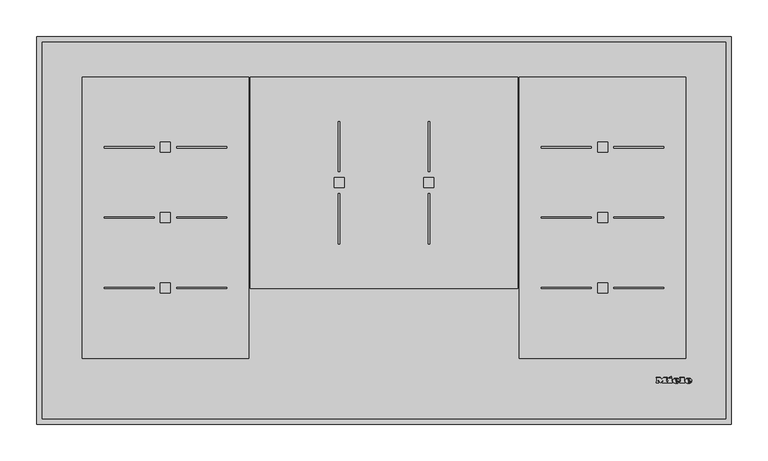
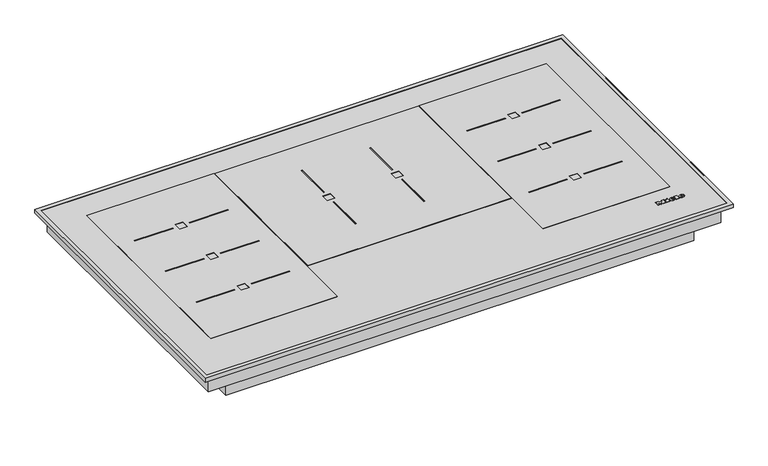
"""IFC4 building model written with IfcOpenShell, lengths in millimetres: proxy geometry, 11126910_F_KM7999FR : 26799900_F_11126910_KM7999FR."""

from ifc_helpers import new_model, si_unit, point, frame, frame_2d, origin, origin_with_axes, place, context, project, spatial, polyline, circle_curve, ellipse_curve, trimmed, segment, composite_curve, outline, extrude, faceted_brep, source, transform, mapped, element, save
from ifc_brep_helpers import plane_surface, cylinder_surface, revolved_surface, extruded_surface, advanced_brep


def specialty_equipment_14de2ed7(model_context):
    return source(origin(), model_context, "Body", "SolidModel", [
        advanced_brep(
        [(412.46, 57.6948833, 6.4802537), (412.46, 58.5028828, 6.4811551), (417.812, 58.5028828, 6.4811551), (408.5, 58.5028828, 6.4811551), (410.7, 55.7988845, 6.4781386), (417.676, 57.6948833, 6.4802537), (415.26, 57.6948833, 6.4802537), (413.356, 56.7988838, 6.4792542), (412.46, 59.5268821, 6.4822974), (412.46, 60.3988816, 6.4832701), (413.828, 60.3988816, 6.4832701), (413.828, 59.5268821, 6.4822974), (412.46, 57.6959988, 5.4802543), (413.356, 56.7999994, 5.4792548), (415.26, 57.6959988, 5.4802543), (417.676, 57.6959988, 5.4802543), (410.7, 55.8, 5.4781393), (408.5, 58.5039983, 5.4811557), (417.812, 58.5039983, 5.4811557), (412.46, 58.5039983, 5.4811557), (412.46, 59.5279977, 5.482298), (413.828, 59.5279977, 5.482298), (413.828, 60.3999971, 5.4832707), (412.46, 60.3999971, 5.4832707)],
        [
            (0, 1),
            (1, 2),
            (2, 3, ellipse_curve(frame((413.156, 58.5028828, 6.4811551), z_axis=(0.0, -0.0011155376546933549, 0.9999993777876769), x_axis=(-1.0, 0.0, 0.0)), 4.656, 3.848)),
            (3, 4, circle_curve(frame((411.5960436, 58.7748826, 6.4814585), z_axis=(0.0, -0.0011155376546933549, 0.9999993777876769), x_axis=(0.0, -0.9999993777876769, -0.0011155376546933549)), 3.1079688)),
            (4, 5, circle_curve(frame((413.0627936, 60.8868813, 6.4838145), z_axis=(0.0, -0.0011155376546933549, 0.9999993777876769), x_axis=(0.0, -0.9999993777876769, -0.0011155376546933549)), 5.6098607)),
            (5, 6),
            (6, 7, circle_curve(frame((413.7470588, 58.4388828, 6.4810837), z_axis=(0.0, 0.0011155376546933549, -0.9999993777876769), x_axis=(0.0, -0.9999993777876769, -0.0011155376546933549)), 1.6859795)),
            (7, 0, circle_curve(frame((413.356, 57.6948833, 6.4802537), z_axis=(0.0, 0.0011155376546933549, -0.9999993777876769), x_axis=(0.0, -0.9999993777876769, -0.0011155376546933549)), 0.896)),
            (8, 9),
            (9, 10, circle_curve(frame((413.144, 60.3988816, 6.4832701), z_axis=(0.0, 0.0011155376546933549, -0.9999993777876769), x_axis=(0.0, -0.9999993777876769, -0.0011155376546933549)), 0.684)),
            (10, 11),
            (11, 8),
            (12, 13, circle_curve(frame((413.356, 57.6959988, 5.4802543), z_axis=(0.0, -0.0011155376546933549, 0.9999993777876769), x_axis=(0.0, -0.9999993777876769, -0.0011155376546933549)), 0.896)),
            (13, 14, circle_curve(frame((413.7470588, 58.4399984, 5.4810843), z_axis=(0.0, -0.0011155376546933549, 0.9999993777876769), x_axis=(0.0, -0.9999993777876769, -0.0011155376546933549)), 1.6859795)),
            (14, 15),
            (15, 16, circle_curve(frame((413.0627936, 60.8879968, 5.4838151), z_axis=(0.0, 0.0011155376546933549, -0.9999993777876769), x_axis=(0.0, -0.9999993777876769, -0.0011155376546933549)), 5.6098607)),
            (16, 17, circle_curve(frame((411.5960436, 58.7759981, 5.4814591), z_axis=(0.0, 0.0011155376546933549, -0.9999993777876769), x_axis=(0.0, -0.9999993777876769, -0.0011155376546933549)), 3.1079688)),
            (17, 18, ellipse_curve(frame((413.156, 58.5039983, 5.4811557), z_axis=(0.0, 0.0011155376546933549, -0.9999993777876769), x_axis=(-1.0, 0.0, 0.0)), 4.656, 3.848)),
            (18, 19),
            (19, 12),
            (20, 21),
            (21, 22),
            (22, 23, circle_curve(frame((413.144, 60.3999971, 5.4832707), z_axis=(0.0, -0.0011155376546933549, 0.9999993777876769), x_axis=(0.0, -0.9999993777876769, -0.0011155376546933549)), 0.684)),
            (23, 20),
            (0, 12),
            (19, 1),
            (18, 2),
            (5, 15),
            (14, 6),
            (17, 3),
            (13, 7),
            (16, 4),
            (8, 20),
            (23, 9),
            (22, 10),
            (21, 11),
        ],
        [
            plane_surface(frame((412.46, 58.5028828, 6.4811551), z_axis=(0.0, -0.0011155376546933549, 0.9999993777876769), x_axis=(0.0, 0.9999993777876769, 0.0011155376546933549))),
            plane_surface(frame((412.46, 58.5039983, 5.4811557), z_axis=(0.0, 0.0011155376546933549, -0.9999993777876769), x_axis=(0.0, -0.9999993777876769, -0.0011155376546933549))),
            plane_surface(frame((412.46, 57.6948833, 6.4802537), z_axis=(1.0000000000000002, 0.0, 0.0), x_axis=(0.0, 0.001115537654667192, -0.999999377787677))),
            plane_surface(frame((412.46, 58.5028828, 6.4811551), z_axis=(0.0, -0.999999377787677, -0.001115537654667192), x_axis=(0.0, 0.001115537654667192, -0.999999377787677))),
            plane_surface(frame((417.676, 57.6948833, 6.4802537), z_axis=(0.0, 0.999999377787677, 0.001115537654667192), x_axis=(0.0, 0.001115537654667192, -0.999999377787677))),
            extruded_surface(trimmed(ellipse_curve(frame((413.156, 58.5051139, 4.4811563), z_axis=(0.0, -0.0011155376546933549, 0.9999993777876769), x_axis=(-1.0, 0.0, 0.0)), 4.656, 3.848), [point((417.812, 58.5051139, 4.4811563))], [point((408.5, 58.5051139, 4.4811563))], True, "CARTESIAN"), (0.0, -0.001115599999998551, 0.9999994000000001), 1.00000002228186),
            revolved_surface(polyline([(413.7470588, 56.75401994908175, 5.479203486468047), (413.7470588, 56.75290441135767, 6.4792029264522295)]), (413.7470588, 58.4399984, 5.4810843), (0.0, 0.0011155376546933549, -0.9999993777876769)),
            revolved_surface(polyline([(413.356, 56.79999935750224, 5.479254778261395), (413.356, 56.79888381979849, 6.479254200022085)]), (413.356, 57.6959988, 5.4802543), (0.0, 0.0011155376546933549, -0.9999993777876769)),
            cylinder_surface(frame((411.5960436, 58.7759981, 5.4814591), z_axis=(0.0, -0.0011155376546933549, 0.9999993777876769), x_axis=(0.0, -0.9999993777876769, -0.0011155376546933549)), 3.1079688),
            cylinder_surface(frame((413.0627936, 60.8879968, 5.4838151), z_axis=(0.0, -0.0011155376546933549, 0.9999993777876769), x_axis=(0.0, -0.9999993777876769, -0.0011155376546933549)), 5.6098607),
            plane_surface(frame((412.46, 59.5268821, 6.4822974), z_axis=(1.0000000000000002, 0.0, 0.0), x_axis=(0.0, 0.001115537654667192, -0.999999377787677))),
            revolved_surface(polyline([(413.144, 59.71599752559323, 5.48250767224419), (413.144, 59.714881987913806, 6.482507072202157)]), (413.144, 60.3999971, 5.4832707), (0.0, 0.0011155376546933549, -0.9999993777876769)),
            plane_surface(frame((413.828, 60.3988816, 6.4832701), z_axis=(-1.0000000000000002, 0.0, 0.0), x_axis=(0.0, 0.001115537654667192, -0.999999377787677))),
            plane_surface(frame((413.828, 59.5268821, 6.4822974), z_axis=(0.0, 0.999999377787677, 0.001115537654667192), x_axis=(0.0, 0.001115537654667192, -0.999999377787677))),
        ],
        [
            (0, [[1, 2, 3, 4, 5, 6, 7, 8], [9, 10, 11, 12]]),
            (1, [[13, 14, 15, 16, 17, 18, 19, 20], [21, 22, 23, 24]]),
            (2, [[-1, 25, -20, 26]]),
            (3, [[-2, -26, -19, 27]]),
            (4, [[-6, 28, -15, 29]]),
            (5, [[-3, -27, -18, 30]]),
            (6, [[-7, -29, -14, 31]]),
            (7, [[-8, -31, -13, -25]]),
            (8, [[-4, -30, -17, 32]]),
            (9, [[-5, -32, -16, -28]]),
            (10, [[-9, 33, -24, 34]]),
            (11, [[-10, -34, -23, 35]]),
            (12, [[-11, -35, -22, 36]]),
            (13, [[-12, -36, -21, -33]]),
        ],
    ),
        advanced_brep(
        [(395.764, 57.6948833, 6.4802537), (395.764, 58.5028828, 6.4811551), (401.116, 58.5028828, 6.4811551), (391.804, 58.5028828, 6.4811551), (394.004, 55.7988845, 6.4781386), (400.98, 57.6948833, 6.4802537), (398.564, 57.6948833, 6.4802537), (396.66, 56.7988838, 6.4792542), (395.764, 59.5268821, 6.4822974), (395.764, 60.3988816, 6.4832701), (397.132, 60.3988816, 6.4832701), (397.132, 59.5268821, 6.4822974), (395.764, 57.6959988, 5.4802543), (396.66, 56.7999994, 5.4792548), (398.564, 57.6959988, 5.4802543), (400.98, 57.6959988, 5.4802543), (394.004, 55.8, 5.4781393), (391.804, 58.5039983, 5.4811557), (401.116, 58.5039983, 5.4811557), (395.764, 58.5039983, 5.4811557), (395.764, 59.5279977, 5.482298), (397.132, 59.5279977, 5.482298), (397.132, 60.3999971, 5.4832707), (395.764, 60.3999971, 5.4832707)],
        [
            (0, 1),
            (1, 2),
            (2, 3, ellipse_curve(frame((396.46, 58.5028828, 6.4811551), z_axis=(0.0, -0.0011155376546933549, 0.9999993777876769), x_axis=(-1.0, 0.0, 0.0)), 4.656, 3.848)),
            (3, 4, circle_curve(frame((394.9000436, 58.7748826, 6.4814585), z_axis=(0.0, -0.0011155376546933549, 0.9999993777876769), x_axis=(0.0, -0.9999993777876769, -0.0011155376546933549)), 3.1079688)),
            (4, 5, circle_curve(frame((396.3667936, 60.8868813, 6.4838145), z_axis=(0.0, -0.0011155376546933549, 0.9999993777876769), x_axis=(0.0, -0.9999993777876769, -0.0011155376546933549)), 5.6098607)),
            (5, 6),
            (6, 7, circle_curve(frame((397.0510588, 58.4388828, 6.4810837), z_axis=(0.0, 0.0011155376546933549, -0.9999993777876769), x_axis=(0.0, -0.9999993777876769, -0.0011155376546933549)), 1.6859795)),
            (7, 0, circle_curve(frame((396.66, 57.6948833, 6.4802537), z_axis=(0.0, 0.0011155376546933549, -0.9999993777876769), x_axis=(0.0, -0.9999993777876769, -0.0011155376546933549)), 0.896)),
            (8, 9),
            (9, 10, circle_curve(frame((396.448, 60.3988816, 6.4832701), z_axis=(0.0, 0.0011155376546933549, -0.9999993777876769), x_axis=(0.0, -0.9999993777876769, -0.0011155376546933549)), 0.684)),
            (10, 11),
            (11, 8),
            (12, 13, circle_curve(frame((396.66, 57.6959988, 5.4802543), z_axis=(0.0, -0.0011155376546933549, 0.9999993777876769), x_axis=(0.0, -0.9999993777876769, -0.0011155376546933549)), 0.896)),
            (13, 14, circle_curve(frame((397.0510588, 58.4399984, 5.4810843), z_axis=(0.0, -0.0011155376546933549, 0.9999993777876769), x_axis=(0.0, -0.9999993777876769, -0.0011155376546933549)), 1.6859795)),
            (14, 15),
            (15, 16, circle_curve(frame((396.3667936, 60.8879968, 5.4838151), z_axis=(0.0, 0.0011155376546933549, -0.9999993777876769), x_axis=(0.0, -0.9999993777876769, -0.0011155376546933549)), 5.6098607)),
            (16, 17, circle_curve(frame((394.9000436, 58.7759981, 5.4814591), z_axis=(0.0, 0.0011155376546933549, -0.9999993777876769), x_axis=(0.0, -0.9999993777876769, -0.0011155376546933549)), 3.1079688)),
            (17, 18, ellipse_curve(frame((396.46, 58.5039983, 5.4811557), z_axis=(0.0, 0.0011155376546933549, -0.9999993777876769), x_axis=(-1.0, 0.0, 0.0)), 4.656, 3.848)),
            (18, 19),
            (19, 12),
            (20, 21),
            (21, 22),
            (22, 23, circle_curve(frame((396.448, 60.3999971, 5.4832707), z_axis=(0.0, -0.0011155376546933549, 0.9999993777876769), x_axis=(0.0, -0.9999993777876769, -0.0011155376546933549)), 0.684)),
            (23, 20),
            (0, 12),
            (19, 1),
            (18, 2),
            (5, 15),
            (14, 6),
            (17, 3),
            (13, 7),
            (16, 4),
            (8, 20),
            (23, 9),
            (22, 10),
            (21, 11),
        ],
        [
            plane_surface(frame((395.764, 58.5028828, 6.4811551), z_axis=(0.0, -0.0011155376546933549, 0.9999993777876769), x_axis=(0.0, 0.9999993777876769, 0.0011155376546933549))),
            plane_surface(frame((395.764, 58.5039983, 5.4811557), z_axis=(0.0, 0.0011155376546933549, -0.9999993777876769), x_axis=(0.0, -0.9999993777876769, -0.0011155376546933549))),
            plane_surface(frame((395.764, 57.6948833, 6.4802537), z_axis=(1.0000000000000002, 0.0, 0.0), x_axis=(0.0, 0.001115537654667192, -0.999999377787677))),
            plane_surface(frame((395.764, 58.5028828, 6.4811551), z_axis=(0.0, -0.999999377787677, -0.001115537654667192), x_axis=(0.0, 0.001115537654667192, -0.999999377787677))),
            plane_surface(frame((400.98, 57.6948833, 6.4802537), z_axis=(0.0, 0.999999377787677, 0.001115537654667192), x_axis=(0.0, 0.001115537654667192, -0.999999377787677))),
            extruded_surface(trimmed(ellipse_curve(frame((396.46, 58.5051139, 4.4811563), z_axis=(0.0, -0.0011155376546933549, 0.9999993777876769), x_axis=(-1.0, 0.0, 0.0)), 4.656, 3.848), [point((401.116, 58.5051139, 4.4811563))], [point((391.804, 58.5051139, 4.4811563))], True, "CARTESIAN"), (0.0, -0.001115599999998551, 0.9999994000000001), 1.00000002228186),
            revolved_surface(polyline([(397.0510588, 56.75401994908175, 5.479203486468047), (397.0510588, 56.75290441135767, 6.4792029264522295)]), (397.0510588, 58.4399984, 5.4810843), (0.0, 0.0011155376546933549, -0.9999993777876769)),
            revolved_surface(polyline([(396.66, 56.79999935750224, 5.479254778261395), (396.66, 56.79888381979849, 6.479254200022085)]), (396.66, 57.6959988, 5.4802543), (0.0, 0.0011155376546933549, -0.9999993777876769)),
            cylinder_surface(frame((394.9000436, 58.7759981, 5.4814591), z_axis=(0.0, -0.0011155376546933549, 0.9999993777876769), x_axis=(0.0, -0.9999993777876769, -0.0011155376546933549)), 3.1079688),
            cylinder_surface(frame((396.3667936, 60.8879968, 5.4838151), z_axis=(0.0, -0.0011155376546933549, 0.9999993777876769), x_axis=(0.0, -0.9999993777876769, -0.0011155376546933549)), 5.6098607),
            plane_surface(frame((395.764, 59.5268821, 6.4822974), z_axis=(1.0000000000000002, 0.0, 0.0), x_axis=(0.0, 0.001115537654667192, -0.999999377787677))),
            revolved_surface(polyline([(396.448, 59.71599752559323, 5.48250767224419), (396.448, 59.714881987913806, 6.482507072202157)]), (396.448, 60.3999971, 5.4832707), (0.0, 0.0011155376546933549, -0.9999993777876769)),
            plane_surface(frame((397.132, 60.3988816, 6.4832701), z_axis=(-1.0000000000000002, 0.0, 0.0), x_axis=(0.0, 0.001115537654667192, -0.999999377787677))),
            plane_surface(frame((397.132, 59.5268821, 6.4822974), z_axis=(0.0, 0.999999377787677, 0.001115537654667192), x_axis=(0.0, 0.001115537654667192, -0.999999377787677))),
        ],
        [
            (0, [[1, 2, 3, 4, 5, 6, 7, 8], [9, 10, 11, 12]]),
            (1, [[13, 14, 15, 16, 17, 18, 19, 20], [21, 22, 23, 24]]),
            (2, [[-1, 25, -20, 26]]),
            (3, [[-2, -26, -19, 27]]),
            (4, [[-6, 28, -15, 29]]),
            (5, [[-3, -27, -18, 30]]),
            (6, [[-7, -29, -14, 31]]),
            (7, [[-8, -31, -13, -25]]),
            (8, [[-4, -30, -17, 32]]),
            (9, [[-5, -32, -16, -28]]),
            (10, [[-9, 33, -24, 34]]),
            (11, [[-10, -34, -23, 35]]),
            (12, [[-11, -35, -22, 36]]),
            (13, [[-12, -36, -21, -33]]),
        ],
    ),
        extrude(outline(polyline([(0.0, 0.0), (-0.0109086, -2.9993294), (-1.4390415, -2.9920868), (-1.4315307, 0.0), (0.0, 0.0)])), frame((387.02, 63.3279953, 5.486537), z_axis=(0.0, -0.001115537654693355, 0.999999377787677), x_axis=(-0.42472021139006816, 0.9053240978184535, 0.0010099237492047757)), (0.0, 0.0, 1.0), 1.0),
        extrude(outline(polyline([(-0.4933908, 2.4141097), (-2.7800844, -2.4601583), (-7.0459741, -0.4588767), (-7.4401145, -1.299018), (-8.6568709, -0.728194), (-5.9760369, 4.9862153), (-4.7592805, 4.4153913), (-5.1636142, 3.5535222), (-2.1941493, 2.1604399), (-1.7898157, 3.022309), (-0.4933908, 2.4141097)])), frame((387.02, 63.3279953, 5.486537), z_axis=(0.0, -0.001115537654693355, 0.999999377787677), x_axis=(-0.42472021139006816, 0.9053240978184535, 0.0010099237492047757)), (0.0, 0.0, 1.0), 1.0),
        extrude(outline(polyline([(0.0, 0.0), (0.0, -1.304), (-5.504, -1.304), (-5.504, 5.3519999), (-6.488, 5.3519999), (-6.488, 6.696), (0.0, 6.696), (0.0, 5.3519999), (-0.96, 5.3519999), (-0.96, 0.0), (0.0, 0.0)])), frame((401.564, 62.4959958, 5.4856089), z_axis=(0.0, -0.0011155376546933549, 0.9999993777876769), x_axis=(-1.0, 0.0, 0.0)), (0.0, 0.0, 1.0), 1.0),
        extrude(outline(polyline([(0.0, 0.0), (0.0, -1.304), (-5.576, -1.304), (-7.92, 1.696), (-10.256, -1.304), (-15.128, -1.304), (-15.128, 0.0), (-14.112, 0.0), (-14.112, 5.3519999), (-15.128, 5.3519999), (-15.128, 6.696), (-8.744, 6.696), (-8.744, 5.3519999), (-9.728, 5.3519999), (-9.728, 1.8807777), (-6.136, 6.696), (-2.56, 1.9488752), (-2.56, 5.3519999), (-3.52, 5.3519999), (-3.52, 6.696), (0.0, 6.696), (0.0, 5.3519999), (-0.968, 5.3519999), (-0.968, 0.0), (0.0, 0.0)])), frame((369.1, 62.4959958, 5.4856089), z_axis=(0.0, -0.0011155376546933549, 0.9999993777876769), x_axis=(-1.0, 0.0, 0.0)), (0.0, 0.0, 1.0), 1.0),
        extrude(outline(polyline([(-175.6227397, 460.2), (-183.0, 460.2), (-183.0, 461.4557039), (-176.8784436, 461.4557039), (-176.8784436, 464.7519266), (-182.529111, 464.7519266), (-182.529111, 466.0076304), (-176.8784436, 466.0076304), (-176.8784436, 468.9899271), (-182.843037, 468.9899271), (-182.843037, 470.245631), (-175.6227397, 470.245631), (-175.6227397, 460.2)])), frame((0.0, 0.0, -91.8), z_axis=(0.0, 0.0, 1.0), x_axis=(1.0, 0.0, 0.0)), (0.0, 0.0, 1.0), 1.0),
        extrude(outline(polyline([(-184.8835558, 460.2), (-191.1620752, 460.2), (-191.1620752, 461.4557039), (-186.1392597, 461.4557039), (-186.1392597, 470.245631), (-184.8835558, 470.245631), (-184.8835558, 460.2)])), frame((0.0, 0.0, -91.8), z_axis=(0.0, 0.0, 1.0), x_axis=(1.0, 0.0, 0.0)), (0.0, 0.0, 1.0), 1.0),
        extrude(outline(polyline([(470.0, 524.0), (470.0, 1.0), (-470.0, 1.0), (-470.0, 524.0), (470.0, 524.0)])), origin_with_axes(), (0.0, 0.0, 1.0), 6.0),
        faceted_brep([(457.2, 512.2, 0.0), (-457.2, 512.2, 0.0), (-457.2, 13.8, 0.0), (457.2, 13.8, 0.0), (457.2, 512.2, -31.6), (-457.2, 512.2, -31.6), (-457.2, 13.8, -31.6), (457.2, 13.8, -31.6), (417.2, 497.2, -60.8), (417.2, 28.8, -60.8), (-417.2, 28.8, -60.8), (-417.2, 497.2, -60.8), (417.2, 497.2, -31.6), (-417.2, 497.2, -31.6), (-417.2, 28.8, -31.6), (417.2, 28.8, -31.6)], [[[0, 1, 2, 3]], [[1, 0, 4, 5]], [[2, 1, 5, 6]], [[3, 2, 6, 7]], [[0, 3, 7, 4]], [[8, 9, 10, 11]], [[4, 7, 6, 5], [12, 13, 14, 15]], [[8, 11, 13, 12]], [[11, 10, 14, 13]], [[10, 9, 15, 14]], [[9, 8, 12, 15]]]),
        faceted_brep([(464.0, 519.0, 7.0), (464.0, 519.0, 6.0), (464.0, 7.0, 6.0), (464.0, 7.0, 7.0), (471.0, 526.0, 0.0), (471.0, 526.0, 7.0), (471.0, 0.0, 7.0), (471.0, 0.0, 0.0), (470.0, 525.0, 6.0), (470.0, 525.0, 0.0), (470.0, 1.0, 0.0), (470.0, 1.0, 6.0), (-464.0, 7.0, 6.0), (-464.0, 7.0, 7.0), (-471.0, 0.0, 7.0), (-471.0, 0.0, 0.0), (-470.0, 1.0, 0.0), (-470.0, 1.0, 6.0), (-464.0, 519.0, 6.0), (-464.0, 519.0, 7.0), (-471.0, 526.0, 7.0), (-471.0, 526.0, 0.0), (-470.0, 525.0, 0.0), (-470.0, 525.0, 6.0)], [[[0, 1, 2, 3]], [[4, 5, 6, 7]], [[8, 9, 10, 11]], [[3, 2, 12, 13]], [[7, 6, 14, 15]], [[11, 10, 16, 17]], [[13, 12, 18, 19]], [[15, 14, 20, 21]], [[17, 16, 22, 23]], [[19, 18, 1, 0]], [[5, 20, 14, 6], [3, 13, 19, 0]], [[21, 20, 5, 4]], [[7, 15, 21, 4], [9, 22, 16, 10]], [[23, 22, 9, 8]], [[11, 17, 23, 8], [1, 18, 12, 2]]]),
        extrude(outline(composite_curve([segment(trimmed(circle_curve(frame_2d((-183.0, 465.2)), 7.5), [point((-183.0, 472.7))], [point((-183.0, 457.7))], False, "CARTESIAN"), True, "CONTINUOUS"), segment(trimmed(circle_curve(frame_2d((-183.0, 465.2)), 7.5), [point((-183.0, 457.7))], [point((-183.0, 472.7))], False, "CARTESIAN"), True, "CONTINUOUS")], self_intersect=False)), frame((0.0, 0.0, -90.8), z_axis=(0.0, 0.0, 1.0), x_axis=(1.0, 0.0, 0.0)), (0.0, 0.0, 1.0), 30.0),
        extrude(outline(polyline([(-183.4, 471.4), (-183.4, 89.4), (-409.6, 89.4), (-409.6, 471.4), (-183.4, 471.4)]), holes=[polyline([(-289.7, 382.7), (-303.3, 382.7), (-303.3, 369.1), (-289.7, 369.1), (-289.7, 382.7)]), polyline([(-289.7, 287.2), (-303.3, 287.2), (-303.3, 273.6), (-289.7, 273.6), (-289.7, 287.2)]), polyline([(-289.7, 191.7), (-303.3, 191.7), (-303.3, 178.1), (-289.7, 178.1), (-289.7, 191.7)]), polyline([(-379.6, 185.7), (-379.6, 184.1), (-311.5, 184.1), (-311.5, 185.7), (-379.6, 185.7)]), polyline([(-213.4, 185.7), (-281.5, 185.7), (-281.5, 184.1), (-213.4, 184.1), (-213.4, 185.7)]), polyline([(-213.4, 281.2), (-281.5, 281.2), (-281.5, 279.6), (-213.4, 279.6), (-213.4, 281.2)]), polyline([(-311.5, 281.2), (-379.6, 281.2), (-379.6, 279.6), (-311.5, 279.6), (-311.5, 281.2)]), polyline([(-311.5, 376.7), (-379.6, 376.7), (-379.6, 375.1), (-311.5, 375.1), (-311.5, 376.7)]), polyline([(-213.4, 376.7), (-281.5, 376.7), (-281.5, 375.1), (-213.4, 375.1), (-213.4, 376.7)])]), frame((0.0, 0.0, 6.0), z_axis=(0.0, 0.0, 1.0), x_axis=(1.0, 0.0, 0.0)), (0.0, 0.0, 1.0), 1.0),
        extrude(outline(polyline([(181.8, 471.4), (181.8, 184.4), (-181.8, 184.4), (-181.8, 471.4), (181.8, 471.4)]), holes=[polyline([(67.8, 334.7), (54.2, 334.7), (54.2, 321.1), (67.8, 321.1), (67.8, 334.7)]), polyline([(-54.2, 334.7), (-67.8, 334.7), (-67.8, 321.1), (-54.2, 321.1), (-54.2, 334.7)]), polyline([(-60.2, 411.0), (-61.8, 411.0), (-61.8, 342.9), (-60.2, 342.9), (-60.2, 411.0)]), polyline([(-60.2, 312.9), (-61.8, 312.9), (-61.8, 244.8), (-60.2, 244.8), (-60.2, 312.9)]), polyline([(61.8, 312.9), (60.2, 312.9), (60.2, 244.8), (61.8, 244.8), (61.8, 312.9)]), polyline([(61.8, 411.0), (60.2, 411.0), (60.2, 342.9), (61.8, 342.9), (61.8, 411.0)])]), frame((0.0, 0.0, 6.0), z_axis=(0.0, 0.0, 1.0), x_axis=(1.0, 0.0, 0.0)), (0.0, 0.0, 1.0), 1.0),
        extrude(outline(polyline([(409.6, 89.4), (183.4, 89.4), (183.4, 471.4), (409.6, 471.4), (409.6, 89.4)]), holes=[polyline([(303.3, 382.7), (289.7, 382.7), (289.7, 369.1), (303.3, 369.1), (303.3, 382.7)]), polyline([(303.3, 287.2), (289.7, 287.2), (289.7, 273.6), (303.3, 273.6), (303.3, 287.2)]), polyline([(303.3, 191.7), (289.7, 191.7), (289.7, 178.1), (303.3, 178.1), (303.3, 191.7)]), polyline([(281.5, 376.7), (213.4, 376.7), (213.4, 375.1), (281.5, 375.1), (281.5, 376.7)]), polyline([(379.6, 376.7), (311.5, 376.7), (311.5, 375.1), (379.6, 375.1), (379.6, 376.7)]), polyline([(379.6, 281.2), (311.5, 281.2), (311.5, 279.6), (379.6, 279.6), (379.6, 281.2)]), polyline([(281.5, 281.2), (213.4, 281.2), (213.4, 279.6), (281.5, 279.6), (281.5, 281.2)]), polyline([(281.5, 185.7), (213.4, 185.7), (213.4, 184.1), (281.5, 184.1), (281.5, 185.7)]), polyline([(379.6, 185.7), (311.5, 185.7), (311.5, 184.1), (379.6, 184.1), (379.6, 185.7)])]), frame((0.0, 0.0, 6.0), z_axis=(0.0, 0.0, 1.0), x_axis=(1.0, 0.0, 0.0)), (0.0, 0.0, 1.0), 1.0),
    ])


if __name__ == "__main__":
    model = new_model("IFC4")
    model_context = context("Model", 3, world=origin())
    ifc_project = project(units=[si_unit("LENGTHUNIT", "METRE", prefix="MILLI")], contexts=[model_context])
    site = spatial("IfcSite", under=ifc_project)
    building = spatial("IfcBuilding", under=site)
    placement = place(None, origin())
    specialty_equipment_shape = specialty_equipment_14de2ed7(model_context)
    element("IfcBuildingElementProxy", 1, Name="11126910_F_KM7999FR : 26799900_F_11126910_KM7999FR", ObjectType="11126910_F_KM7999FR : 26799900_F_11126910_KM7999FR", at=placement, inside=building, context=model_context, shape_type="MappedRepresentation", body=[
        mapped(specialty_equipment_shape, transform((0.0, 0.0, 0.0), x_axis=(1.0, 0.0, 0.0), y_axis=(0.0, 1.0, 0.0), z_axis=(0.0, 0.0, 1.0))),
    ])
    save(model, "model.ifc")
